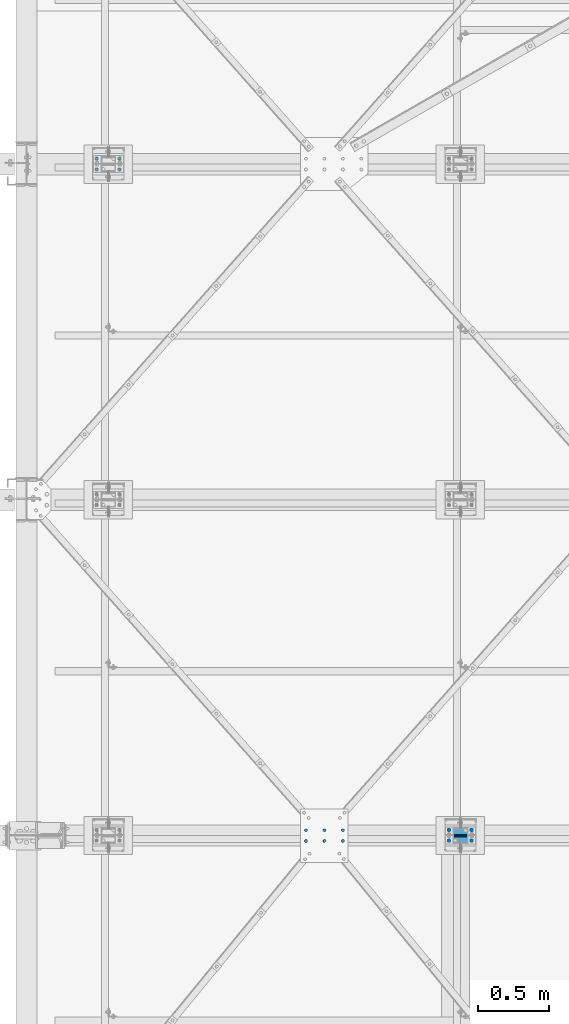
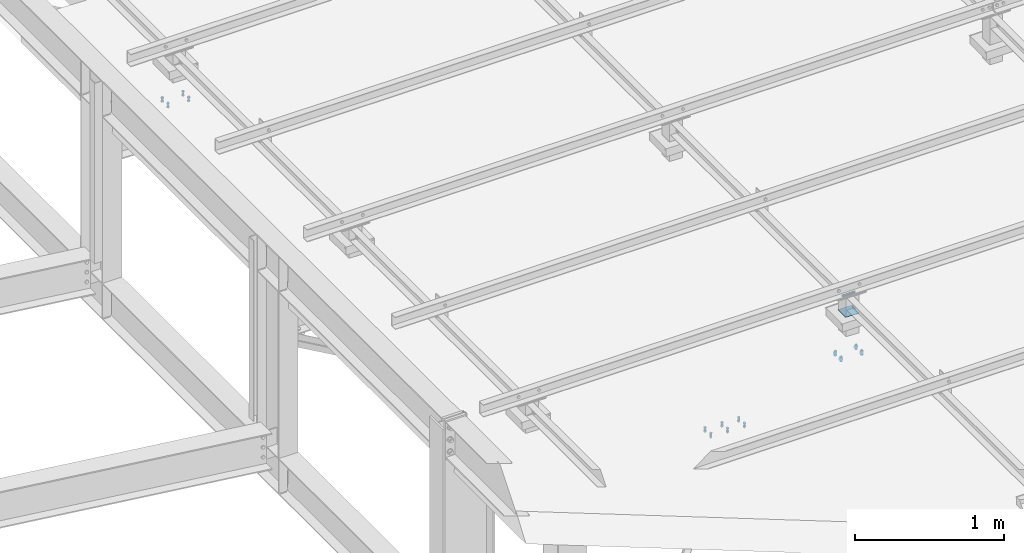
# One storey, part 326 of 3134: 6 mechanical fasteners, 4 elements without a shape of their own.
"""IFC2X3 building model written with IfcOpenShell, lengths in millimetres."""

from ifc_helpers import new_model, si_unit, frame, origin_with_axes, place, context, subcontext, project, spatial, faceted_brep, source, transform, mapped, material, type_object, element, aggregate, save


model = new_model("IFC2X3")

# Units and contexts
model_context = context("Model", 3, precision=1e-05, world=origin_with_axes())
body_context = subcontext(model_context, "Body", "Model", "MODEL_VIEW")
ifc_project = project(units=[si_unit("LENGTHUNIT", "METRE", prefix="MILLI"), si_unit("AREAUNIT", "SQUARE_METRE"), si_unit("VOLUMEUNIT", "CUBIC_METRE"), si_unit("MASSUNIT", "GRAM", prefix="KILO"), si_unit("TIMEUNIT", "SECOND"), si_unit("PLANEANGLEUNIT", "RADIAN"), si_unit("SOLIDANGLEUNIT", "STERADIAN"), si_unit("THERMODYNAMICTEMPERATUREUNIT", "DEGREE_CELSIUS"), si_unit("LUMINOUSINTENSITYUNIT", "LUMEN")], contexts=[model_context])

# Site, building, storey
site_placement = place(None, origin_with_axes())
site = spatial("IfcSite", under=ifc_project, at=site_placement, CompositionType="ELEMENT")
building_placement = place(site_placement, origin_with_axes())
building = spatial("IfcBuilding", under=site, at=building_placement, Name="Undefined", CompositionType="ELEMENT")
storey_placement = place(building_placement, origin_with_axes())
storey = spatial("IfcBuildingStorey", under=building, at=storey_placement, Name="Undefined", CompositionType="ELEMENT", Elevation=0.0)

# Assembly, mechanical fastener
assembly_1_placement = place(storey_placement, origin_with_axes())
assembly_1 = element("IfcElementAssembly", 1, at=assembly_1_placement, inside=storey, AssemblyPlace="NOTDEFINED", PredefinedType="RIGID_FRAME")
ifc_material_1 = material(Name="8.8")
mechanical_fastener_type = type_object("IfcMechanicalFastenerType", Name="Bolt assembly")
shared_shape_1 = source(origin_with_axes(), body_context, "Body", "Brep", [
    faceted_brep([(7.0, 13.0000253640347, 0.0), (6.06217782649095, 13.0000253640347, 3.50000000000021), (3.49999999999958, 13.0000253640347, 6.06217782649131), (-7.25435187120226e-13, 13.0000253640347, 7.0), (-3.50000000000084, 13.0000253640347, 6.06217782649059), (-6.06217782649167, 13.0000253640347, 3.49999999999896), (-7.0, 13.0000253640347, -1.45087037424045e-12), (-6.06217782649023, 13.0000253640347, -3.50000000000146), (-3.49999999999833, 13.0000253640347, -6.06217782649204), (2.1685340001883e-12, 13.0000253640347, -7.0), (3.50000000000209, 13.0000253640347, -6.06217782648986), (6.0621778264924, 13.0000253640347, -3.4999999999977), (6.0621778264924, 15.0999999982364, -3.4999999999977), (3.50000000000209, 15.0999999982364, -6.06217782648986), (2.1685340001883e-12, 15.0999999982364, -7.0), (-3.49999999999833, 15.0999999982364, -6.06217782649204), (-6.06217782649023, 15.0999999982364, -3.50000000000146), (-7.0, 15.0999999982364, -1.45087037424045e-12), (-6.06217782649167, 15.0999999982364, 3.49999999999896), (-3.50000000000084, 15.0999999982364, 6.06217782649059), (-7.25435187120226e-13, 15.0999999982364, 7.0), (3.49999999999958, 15.0999999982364, 6.06217782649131), (6.06217782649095, 15.0999999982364, 3.50000000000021), (7.0, 15.0999999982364, 0.0)], [[[0, 1, 2, 3, 4, 5, 6, 7, 8, 9, 10, 11]], [[12, 13, 14, 15, 16, 17, 18, 19, 20, 21, 22, 23]], [[0, 23, 22, 1]], [[1, 22, 21, 2]], [[2, 21, 20, 3]], [[3, 20, 19, 4]], [[4, 19, 18, 5]], [[5, 18, 17, 6]], [[6, 17, 16, 7]], [[7, 16, 15, 8]], [[8, 15, 14, 9]], [[9, 14, 13, 10]], [[10, 13, 12, 11]], [[11, 12, 23, 0]]]),
])
mechanical_fastener_1_placement = place(assembly_1_placement, frame((70599.3451187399, 7688.0, 5332.4572055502), z_axis=(-0.99951962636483, 0.0, 0.0309922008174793), x_axis=(0.0, -1.0, 0.0)))
mechanical_fastener_1 = element("IfcMechanicalFastener", 2, at=mechanical_fastener_1_placement, type_object=mechanical_fastener_type, material=ifc_material_1, Name="Bolt assembly", NominalDiameter=12.0, NominalLength=2.0, context=body_context, shape_type="MappedRepresentation", body=[
    mapped(shared_shape_1, transform((0.0, -5.32963895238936e-10, -79.9999999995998))),
    mapped(shared_shape_1, transform((76.0, -5.32963895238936e-10, -79.9999999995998))),
    mapped(shared_shape_1, transform((0.0, 5.3114490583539e-10, 79.9999999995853))),
    mapped(shared_shape_1, transform((76.0, 5.3114490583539e-10, 79.9999999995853))),
])
aggregate(assembly_1, [mechanical_fastener_1])

# Assembly, mechanical fasteners
assembly_2_placement = place(storey_placement, origin_with_axes())
assembly_2 = element("IfcElementAssembly", 3, at=assembly_2_placement, inside=storey, AssemblyPlace="NOTDEFINED", PredefinedType="RIGID_FRAME")
shared_shape_2 = source(origin_with_axes(), body_context, "Body", "Brep", [
    faceted_brep([(9.0, -50.0, 0.0), (7.79422863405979, -50.0, 4.50000000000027), (4.49999999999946, -50.0, 7.79422863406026), (-9.3270238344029e-13, -50.0, 9.0), (-4.50000000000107, -50.0, 7.79422863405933), (-7.79422863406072, -50.0, 4.49999999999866), (-9.0, -50.0, -1.86540476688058e-12), (-7.79422863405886, -50.0, -4.50000000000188), (-4.49999999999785, -50.0, -7.79422863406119), (2.78811514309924e-12, -50.0, -9.0), (4.50000000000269, -50.0, -7.7942286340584), (7.79422863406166, -50.0, -4.49999999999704), (7.79422863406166, 50.1, -4.49999999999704), (4.50000000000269, 50.1, -7.7942286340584), (2.78811514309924e-12, 50.1, -9.0), (-4.49999999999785, 50.1, -7.79422863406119), (-7.79422863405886, 50.1, -4.50000000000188), (-9.0, 50.1, -1.86540476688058e-12), (-7.79422863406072, 50.1, 4.49999999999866), (-4.50000000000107, 50.1, 7.79422863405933), (-9.3270238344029e-13, 50.1, 9.0), (4.49999999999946, 50.1, 7.79422863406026), (7.79422863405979, 50.1, 4.50000000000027), (9.0, 50.1, 0.0)], [[[0, 1, 2, 3, 4, 5, 6, 7, 8, 9, 10, 11]], [[12, 13, 14, 15, 16, 17, 18, 19, 20, 21, 22, 23]], [[0, 23, 22, 1]], [[1, 22, 21, 2]], [[2, 21, 20, 3]], [[3, 20, 19, 4]], [[4, 19, 18, 5]], [[5, 18, 17, 6]], [[6, 17, 16, 7]], [[7, 16, 15, 8]], [[8, 15, 14, 9]], [[9, 14, 13, 10]], [[10, 13, 12, 11]], [[11, 12, 23, 0]]]),
])
mechanical_fastener_2_placement = place(assembly_2_placement, frame((70600.0, 7650.0, 5830.0), z_axis=(0.0, 1.0, 0.0), x_axis=(0.0, 0.0, 1.0)))
mechanical_fastener_2 = element("IfcMechanicalFastener", 4, at=mechanical_fastener_2_placement, type_object=mechanical_fastener_type, material=ifc_material_1, Name="Bolt assembly", NominalDiameter=16.0, NominalLength=100.0, context=body_context, shape_type="MappedRepresentation", body=[
    mapped(shared_shape_2, transform((0.0, 0.0, 0.0))),
])
ifc_material_2 = material(Name="6.8")
shared_shape_3 = source(origin_with_axes(), body_context, "Body", "Brep", [
    faceted_brep([(51.5, 1.36424205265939e-12, 50.0), (51.3858192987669, 1.36424205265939e-12, 50.5740251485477), (51.0606601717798, 1.36424205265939e-12, 51.0606601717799), (50.5740251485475, 1.36424205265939e-12, 51.385819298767), (-50.0000000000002, 1.36424205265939e-12, 51.5), (-50.7500000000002, 1.36424205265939e-12, 51.2990381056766), (-51.2990381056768, 1.36424205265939e-12, 50.7499999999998), (-51.5, 1.36424205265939e-12, 49.9999999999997), (-51.5, 1.36424205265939e-12, -50.0000000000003), (-51.2990381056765, 1.36424205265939e-12, -50.7500000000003), (-50.7499999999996, 1.36424205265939e-12, -51.2990381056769), (-49.9999999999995, 1.36424205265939e-12, -51.5), (50.0000000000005, 1.36424205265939e-12, -51.5), (50.7500000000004, 1.36424205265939e-12, -51.2990381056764), (51.2990381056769, 1.36424205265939e-12, -50.7499999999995), (51.5, 1.36424205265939e-12, -49.9999999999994), (51.5, 5.10000000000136, -49.9999999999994), (51.2990381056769, 5.10000000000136, -50.7499999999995), (50.7500000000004, 5.10000000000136, -51.2990381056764), (50.0000000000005, 5.10000000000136, -51.5), (-49.9999999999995, 5.10000000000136, -51.5), (-50.7499999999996, 5.10000000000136, -51.2990381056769), (-51.2990381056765, 5.10000000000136, -50.7500000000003), (-51.5, 5.10000000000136, -50.0000000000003), (-51.5, 5.10000000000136, 49.9999999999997), (-51.2990381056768, 5.10000000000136, 50.7499999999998), (-50.7500000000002, 5.10000000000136, 51.2990381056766), (-50.0000000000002, 5.10000000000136, 51.5), (50.5740251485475, 5.10000000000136, 51.385819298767), (51.0606601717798, 5.10000000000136, 51.0606601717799), (51.3858192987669, 5.10000000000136, 50.5740251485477), (51.5, 5.10000000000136, 50.0)], [[[0, 1, 2, 3, 4, 5, 6, 7, 8, 9, 10, 11, 12, 13, 14, 15]], [[16, 17, 18, 19, 20, 21, 22, 23, 24, 25, 26, 27, 28, 29, 30, 31]], [[0, 31, 30, 1]], [[1, 30, 29, 2]], [[2, 29, 28, 3]], [[3, 28, 27, 4]], [[4, 27, 26, 5]], [[5, 26, 25, 6]], [[6, 25, 24, 7]], [[7, 24, 23, 8]], [[8, 23, 22, 9]], [[9, 22, 21, 10]], [[10, 21, 20, 11]], [[11, 20, 19, 12]], [[12, 19, 18, 13]], [[13, 18, 17, 14]], [[14, 17, 16, 15]], [[15, 16, 31, 0]]]),
])
mechanical_fastener_3_placement = place(assembly_2_placement, frame((70600.0, 7650.0, 5687.16), z_axis=(0.0, -1.0, 0.0), x_axis=(-1.0, 0.0, 0.0)))
mechanical_fastener_3 = element("IfcMechanicalFastener", 5, at=mechanical_fastener_3_placement, type_object=mechanical_fastener_type, material=ifc_material_2, Name="Bolt assembly", NominalDiameter=10.0, NominalLength=5.0, context=body_context, shape_type="MappedRepresentation", body=[
    mapped(shared_shape_3, transform((0.0, 0.0, 0.0))),
])
aggregate(assembly_2, [mechanical_fastener_2, mechanical_fastener_3])

# Assembly, mechanical fastener
assembly_3_placement = place(storey_placement, origin_with_axes())
assembly_3 = element("IfcElementAssembly", 6, at=assembly_3_placement, inside=storey, Name="300", AssemblyPlace="NOTDEFINED", PredefinedType="RIGID_FRAME")
shared_shape_4 = source(origin_with_axes(), body_context, "Body", "Brep", [
    faceted_brep([(10.9696551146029, -10.1955642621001, 0.0), (5.48482755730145, -10.1955642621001, 9.5), (-5.48482755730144, -10.1955642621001, 9.5), (-10.9696551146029, -10.1955642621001, 1.34339530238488e-15), (-5.48482755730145, -10.1955642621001, -9.5), (5.48482755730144, -10.1955642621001, -9.50000000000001), (5.48482755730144, -2.19556426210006, -9.50000000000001), (-5.48482755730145, -2.19556426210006, -9.5), (-10.9696551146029, -2.19556426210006, 1.34339530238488e-15), (-5.48482755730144, -2.19556426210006, 9.5), (5.48482755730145, -2.19556426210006, 9.5), (10.9696551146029, -2.19556426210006, 0.0), (6.0, -2.19556426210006, 0.0), (5.19615242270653, -2.19556426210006, 3.00000000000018), (2.99999999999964, -2.19556426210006, 5.19615242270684), (-6.21801588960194e-13, -2.19556426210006, 6.0), (-3.00000000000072, -2.19556426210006, 5.19615242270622), (-5.19615242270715, -2.19556426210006, 2.9999999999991), (-6.0, -2.19556426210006, -1.24360317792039e-12), (-5.19615242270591, -2.19556426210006, -3.00000000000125), (-2.99999999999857, -2.19556426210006, -5.19615242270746), (1.85874342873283e-12, -2.19556426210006, -6.0), (3.00000000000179, -2.19556426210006, -5.1961524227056), (5.19615242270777, -2.19556426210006, -2.99999999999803), (5.19615242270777, 32.8044357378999, -2.99999999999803), (3.00000000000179, 32.8044357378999, -5.1961524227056), (1.85874342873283e-12, 32.8044357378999, -6.0), (-2.99999999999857, 32.8044357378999, -5.19615242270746), (-5.19615242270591, 32.8044357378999, -3.00000000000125), (-6.0, 32.8044357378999, -1.24360317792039e-12), (-5.19615242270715, 32.8044357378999, 2.9999999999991), (-3.00000000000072, 32.8044357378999, 5.19615242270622), (-6.21801588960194e-13, 32.8044357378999, 6.0), (2.99999999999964, 32.8044357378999, 5.19615242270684), (5.19615242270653, 32.8044357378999, 3.00000000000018), (6.0, 32.8044357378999, 0.0), (10.9696551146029, 17.0008987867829, 0.0), (5.48482755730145, 17.0008987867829, 9.5), (-5.48482755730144, 17.0008987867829, 9.5), (-10.9696551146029, 17.0008987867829, 1.34339530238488e-15), (-5.48482755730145, 17.0008987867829, -9.5), (5.48482755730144, 17.0008987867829, -9.50000000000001), (5.48482755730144, 27.0008987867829, -9.50000000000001), (-5.48482755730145, 27.0008987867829, -9.5), (-10.9696551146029, 27.0008987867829, 1.34339530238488e-15), (-5.48482755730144, 27.0008987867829, 9.5), (5.48482755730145, 27.0008987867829, 9.5), (10.9696551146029, 27.0008987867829, 0.0)], [[[0, 1, 2, 3, 4, 5]], [[6, 7, 8, 9, 10, 11]], [[0, 11, 10, 1]], [[1, 10, 9, 2]], [[2, 9, 8, 3]], [[3, 8, 7, 4]], [[4, 7, 6, 5]], [[5, 6, 11, 0]], [[12, 13, 14, 15, 16, 17, 18, 19, 20, 21, 22, 23]], [[24, 25, 26, 27, 28, 29, 30, 31, 32, 33, 34, 35]], [[12, 35, 34, 13]], [[13, 34, 33, 14]], [[14, 33, 32, 15]], [[15, 32, 31, 16]], [[16, 31, 30, 17]], [[17, 30, 29, 18]], [[18, 29, 28, 19]], [[19, 28, 27, 20]], [[20, 27, 26, 21]], [[21, 26, 25, 22]], [[22, 25, 24, 23]], [[23, 24, 35, 12]], [[36, 37, 38, 39, 40, 41]], [[42, 43, 44, 45, 46, 47]], [[36, 47, 46, 37]], [[37, 46, 45, 38]], [[38, 45, 44, 39]], [[39, 44, 43, 40]], [[40, 43, 42, 41]], [[41, 42, 47, 36]]]),
    faceted_brep([(7.0, 8.90089878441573, 0.0), (6.06217782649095, 8.90089878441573, 3.50000000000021), (3.49999999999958, 8.90089878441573, 6.06217782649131), (-7.25435187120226e-13, 8.90089878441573, 7.0), (-3.50000000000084, 8.90089878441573, 6.06217782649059), (-6.06217782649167, 8.90089878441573, 3.49999999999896), (-7.0, 8.90089878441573, -1.45087037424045e-12), (-6.06217782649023, 8.90089878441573, -3.50000000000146), (-3.49999999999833, 8.90089878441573, -6.06217782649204), (2.1685340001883e-12, 8.90089878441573, -7.0), (3.50000000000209, 8.90089878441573, -6.06217782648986), (6.0621778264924, 8.90089878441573, -3.4999999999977), (6.0621778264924, 17.0008987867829, -3.4999999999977), (3.50000000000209, 17.0008987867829, -6.06217782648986), (2.1685340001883e-12, 17.0008987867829, -7.0), (-3.49999999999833, 17.0008987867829, -6.06217782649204), (-6.06217782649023, 17.0008987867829, -3.50000000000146), (-7.0, 17.0008987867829, -1.45087037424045e-12), (-6.06217782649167, 17.0008987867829, 3.49999999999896), (-3.50000000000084, 17.0008987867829, 6.06217782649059), (-7.25435187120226e-13, 17.0008987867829, 7.0), (3.49999999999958, 17.0008987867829, 6.06217782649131), (6.06217782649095, 17.0008987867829, 3.50000000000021), (7.0, 17.0008987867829, 0.0), (7.0, -2.09556426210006, 0.0), (6.06217782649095, -2.09556426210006, 3.50000000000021), (3.49999999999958, -2.09556426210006, 6.06217782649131), (-7.25435187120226e-13, -2.09556426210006, 7.0), (-3.50000000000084, -2.09556426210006, 6.06217782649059), (-6.06217782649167, -2.09556426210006, 3.49999999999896), (-7.0, -2.09556426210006, -1.45087037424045e-12), (-6.06217782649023, -2.09556426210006, -3.50000000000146), (-3.49999999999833, -2.09556426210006, -6.06217782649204), (2.1685340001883e-12, -2.09556426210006, -7.0), (3.50000000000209, -2.09556426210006, -6.06217782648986), (6.0621778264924, -2.09556426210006, -3.4999999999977), (6.0621778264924, 7.10443554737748, -3.4999999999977), (3.50000000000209, 7.10443554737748, -6.06217782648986), (2.1685340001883e-12, 7.10443554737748, -7.0), (-3.49999999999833, 7.10443554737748, -6.06217782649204), (-6.06217782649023, 7.10443554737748, -3.50000000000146), (-7.0, 7.10443554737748, -1.45087037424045e-12), (-6.06217782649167, 7.10443554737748, 3.49999999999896), (-3.50000000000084, 7.10443554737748, 6.06217782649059), (-7.25435187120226e-13, 7.10443554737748, 7.0), (3.49999999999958, 7.10443554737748, 6.06217782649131), (6.06217782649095, 7.10443554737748, 3.50000000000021), (7.0, 7.10443554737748, 0.0)], [[[0, 1, 2, 3, 4, 5, 6, 7, 8, 9, 10, 11]], [[12, 13, 14, 15, 16, 17, 18, 19, 20, 21, 22, 23]], [[0, 23, 22, 1]], [[1, 22, 21, 2]], [[2, 21, 20, 3]], [[3, 20, 19, 4]], [[4, 19, 18, 5]], [[5, 18, 17, 6]], [[6, 17, 16, 7]], [[7, 16, 15, 8]], [[8, 15, 14, 9]], [[9, 14, 13, 10]], [[10, 13, 12, 11]], [[11, 12, 23, 0]], [[24, 25, 26, 27, 28, 29, 30, 31, 32, 33, 34, 35]], [[36, 37, 38, 39, 40, 41, 42, 43, 44, 45, 46, 47]], [[24, 47, 46, 25]], [[25, 46, 45, 26]], [[26, 45, 44, 27]], [[27, 44, 43, 28]], [[28, 43, 42, 29]], [[29, 42, 41, 30]], [[30, 41, 40, 31]], [[31, 40, 39, 32]], [[32, 39, 38, 33]], [[33, 38, 37, 34]], [[34, 37, 36, 35]], [[35, 36, 47, 24]]]),
])
mechanical_fastener_4_placement = place(assembly_3_placement, frame((70599.5351187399, 7688.0, 5338.4572055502), z_axis=(-0.99951962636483, 0.0, 0.0309922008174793), x_axis=(0.0, -1.0, 0.0)))
mechanical_fastener_4 = element("IfcMechanicalFastener", 7, at=mechanical_fastener_4_placement, type_object=mechanical_fastener_type, material=ifc_material_1, Name="Bolt assembly", NominalDiameter=12.0, NominalLength=35.0, context=body_context, shape_type="MappedRepresentation", body=[
    mapped(shared_shape_4, transform((0.0, -5.32963895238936e-10, -79.9999999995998))),
    mapped(shared_shape_4, transform((76.0, -5.32963895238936e-10, -79.9999999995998))),
    mapped(shared_shape_4, transform((0.0, 5.3114490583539e-10, 79.9999999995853))),
    mapped(shared_shape_4, transform((76.0, 5.3114490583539e-10, 79.9999999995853))),
])

assembly_4_placement = place(storey_placement, origin_with_axes())
assembly_4 = element("IfcElementAssembly", 8, at=assembly_4_placement, inside=storey, Name="300", AssemblyPlace="NOTDEFINED", PredefinedType="RIGID_FRAME")
shared_shape_5 = source(origin_with_axes(), body_context, "Body", "Brep", [
    faceted_brep([(10.9696551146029, -10.2005960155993, 0.0), (5.48482755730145, -10.2005960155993, 9.5), (-5.48482755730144, -10.2005960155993, 9.5), (-10.9696551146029, -10.2005960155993, 1.34339530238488e-15), (-5.48482755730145, -10.2005960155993, -9.5), (5.48482755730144, -10.2005960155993, -9.50000000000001), (5.48482755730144, -2.20059601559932, -9.50000000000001), (-5.48482755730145, -2.20059601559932, -9.5), (-10.9696551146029, -2.20059601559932, 1.34339530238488e-15), (-5.48482755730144, -2.20059601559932, 9.5), (5.48482755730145, -2.20059601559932, 9.5), (10.9696551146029, -2.20059601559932, 0.0), (6.0, -2.20059601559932, 0.0), (5.19615242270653, -2.20059601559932, 3.00000000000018), (2.99999999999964, -2.20059601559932, 5.19615242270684), (-6.21801588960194e-13, -2.20059601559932, 6.0), (-3.00000000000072, -2.20059601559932, 5.19615242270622), (-5.19615242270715, -2.20059601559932, 2.9999999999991), (-6.0, -2.20059601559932, -1.24360317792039e-12), (-5.19615242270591, -2.20059601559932, -3.00000000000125), (-2.99999999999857, -2.20059601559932, -5.19615242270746), (1.85874342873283e-12, -2.20059601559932, -6.0), (3.00000000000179, -2.20059601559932, -5.1961524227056), (5.19615242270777, -2.20059601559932, -2.99999999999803), (5.19615242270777, 32.7994039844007, -2.99999999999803), (3.00000000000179, 32.7994039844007, -5.1961524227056), (1.85874342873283e-12, 32.7994039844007, -6.0), (-2.99999999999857, 32.7994039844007, -5.19615242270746), (-5.19615242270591, 32.7994039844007, -3.00000000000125), (-6.0, 32.7994039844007, -1.24360317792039e-12), (-5.19615242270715, 32.7994039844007, 2.9999999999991), (-3.00000000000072, 32.7994039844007, 5.19615242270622), (-6.21801588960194e-13, 32.7994039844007, 6.0), (2.99999999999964, 32.7994039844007, 5.19615242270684), (5.19615242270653, 32.7994039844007, 3.00000000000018), (6.0, 32.7994039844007, 0.0), (10.9696551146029, 17.0008987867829, 0.0), (5.48482755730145, 17.0008987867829, 9.5), (-5.48482755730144, 17.0008987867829, 9.5), (-10.9696551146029, 17.0008987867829, 1.34339530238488e-15), (-5.48482755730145, 17.0008987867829, -9.5), (5.48482755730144, 17.0008987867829, -9.50000000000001), (5.48482755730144, 27.0008987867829, -9.50000000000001), (-5.48482755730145, 27.0008987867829, -9.5), (-10.9696551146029, 27.0008987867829, 1.34339530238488e-15), (-5.48482755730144, 27.0008987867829, 9.5), (5.48482755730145, 27.0008987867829, 9.5), (10.9696551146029, 27.0008987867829, 0.0)], [[[0, 1, 2, 3, 4, 5]], [[6, 7, 8, 9, 10, 11]], [[0, 11, 10, 1]], [[1, 10, 9, 2]], [[2, 9, 8, 3]], [[3, 8, 7, 4]], [[4, 7, 6, 5]], [[5, 6, 11, 0]], [[12, 13, 14, 15, 16, 17, 18, 19, 20, 21, 22, 23]], [[24, 25, 26, 27, 28, 29, 30, 31, 32, 33, 34, 35]], [[12, 35, 34, 13]], [[13, 34, 33, 14]], [[14, 33, 32, 15]], [[15, 32, 31, 16]], [[16, 31, 30, 17]], [[17, 30, 29, 18]], [[18, 29, 28, 19]], [[19, 28, 27, 20]], [[20, 27, 26, 21]], [[21, 26, 25, 22]], [[22, 25, 24, 23]], [[23, 24, 35, 12]], [[36, 37, 38, 39, 40, 41]], [[42, 43, 44, 45, 46, 47]], [[36, 47, 46, 37]], [[37, 46, 45, 38]], [[38, 45, 44, 39]], [[39, 44, 43, 40]], [[40, 43, 42, 41]], [[41, 42, 47, 36]]]),
    faceted_brep([(7.0, 8.90089878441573, 0.0), (6.06217782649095, 8.90089878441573, 3.50000000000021), (3.49999999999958, 8.90089878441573, 6.06217782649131), (-7.25435187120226e-13, 8.90089878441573, 7.0), (-3.50000000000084, 8.90089878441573, 6.06217782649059), (-6.06217782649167, 8.90089878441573, 3.49999999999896), (-7.0, 8.90089878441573, -1.45087037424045e-12), (-6.06217782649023, 8.90089878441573, -3.50000000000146), (-3.49999999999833, 8.90089878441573, -6.06217782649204), (2.1685340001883e-12, 8.90089878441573, -7.0), (3.50000000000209, 8.90089878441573, -6.06217782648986), (6.0621778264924, 8.90089878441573, -3.4999999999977), (6.0621778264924, 17.0008987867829, -3.4999999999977), (3.50000000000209, 17.0008987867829, -6.06217782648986), (2.1685340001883e-12, 17.0008987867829, -7.0), (-3.49999999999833, 17.0008987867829, -6.06217782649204), (-6.06217782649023, 17.0008987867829, -3.50000000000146), (-7.0, 17.0008987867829, -1.45087037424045e-12), (-6.06217782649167, 17.0008987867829, 3.49999999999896), (-3.50000000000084, 17.0008987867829, 6.06217782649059), (-7.25435187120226e-13, 17.0008987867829, 7.0), (3.49999999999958, 17.0008987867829, 6.06217782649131), (6.06217782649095, 17.0008987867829, 3.50000000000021), (7.0, 17.0008987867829, 0.0), (7.0, -2.10059601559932, 0.0), (6.06217782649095, -2.10059601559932, 3.50000000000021), (3.49999999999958, -2.10059601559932, 6.06217782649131), (-7.25435187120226e-13, -2.10059601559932, 7.0), (-3.50000000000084, -2.10059601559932, 6.06217782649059), (-6.06217782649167, -2.10059601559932, 3.49999999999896), (-7.0, -2.10059601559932, -1.45087037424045e-12), (-6.06217782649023, -2.10059601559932, -3.50000000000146), (-3.49999999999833, -2.10059601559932, -6.06217782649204), (2.1685340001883e-12, -2.10059601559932, -7.0), (3.50000000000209, -2.10059601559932, -6.06217782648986), (6.0621778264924, -2.10059601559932, -3.4999999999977), (6.0621778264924, 7.09940379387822, -3.4999999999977), (3.50000000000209, 7.09940379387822, -6.06217782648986), (2.1685340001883e-12, 7.09940379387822, -7.0), (-3.49999999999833, 7.09940379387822, -6.06217782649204), (-6.06217782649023, 7.09940379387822, -3.50000000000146), (-7.0, 7.09940379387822, -1.45087037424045e-12), (-6.06217782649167, 7.09940379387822, 3.49999999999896), (-3.50000000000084, 7.09940379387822, 6.06217782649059), (-7.25435187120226e-13, 7.09940379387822, 7.0), (3.49999999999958, 7.09940379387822, 6.06217782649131), (6.06217782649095, 7.09940379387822, 3.50000000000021), (7.0, 7.09940379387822, 0.0)], [[[0, 1, 2, 3, 4, 5, 6, 7, 8, 9, 10, 11]], [[12, 13, 14, 15, 16, 17, 18, 19, 20, 21, 22, 23]], [[0, 23, 22, 1]], [[1, 22, 21, 2]], [[2, 21, 20, 3]], [[3, 20, 19, 4]], [[4, 19, 18, 5]], [[5, 18, 17, 6]], [[6, 17, 16, 7]], [[7, 16, 15, 8]], [[8, 15, 14, 9]], [[9, 14, 13, 10]], [[10, 13, 12, 11]], [[11, 12, 23, 0]], [[24, 25, 26, 27, 28, 29, 30, 31, 32, 33, 34, 35]], [[36, 37, 38, 39, 40, 41, 42, 43, 44, 45, 46, 47]], [[24, 47, 46, 25]], [[25, 46, 45, 26]], [[26, 45, 44, 27]], [[27, 44, 43, 28]], [[28, 43, 42, 29]], [[29, 42, 41, 30]], [[30, 41, 40, 31]], [[31, 40, 39, 32]], [[32, 39, 38, 33]], [[33, 38, 37, 34]], [[34, 37, 36, 35]], [[35, 36, 47, 24]]]),
])
mechanical_fastener_5_placement = place(assembly_4_placement, frame((68124.5351187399, 12408.0, 5415.1872055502), z_axis=(-0.99951962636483, 0.0, 0.0309922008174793), x_axis=(0.0, -1.0, 0.0)))
mechanical_fastener_5 = element("IfcMechanicalFastener", 9, at=mechanical_fastener_5_placement, type_object=mechanical_fastener_type, material=ifc_material_1, Name="Bolt assembly", NominalDiameter=12.0, NominalLength=35.0, context=body_context, shape_type="MappedRepresentation", body=[
    mapped(shared_shape_5, transform((0.0, -5.32963895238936e-10, -79.9999999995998))),
    mapped(shared_shape_5, transform((76.0, -5.32963895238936e-10, -79.9999999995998))),
    mapped(shared_shape_5, transform((0.0, 5.3114490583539e-10, 79.9999999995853))),
    mapped(shared_shape_5, transform((76.0, 5.3114490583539e-10, 79.9999999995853))),
])
aggregate(assembly_4, [mechanical_fastener_5])

# Mechanical fastener
shared_shape_6 = source(origin_with_axes(), body_context, "Body", "Brep", [
    faceted_brep([(10.9696551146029, -21.2000017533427, 0.0), (5.48482755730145, -21.2000017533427, 9.5), (-5.48482755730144, -21.2000017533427, 9.5), (-10.9696551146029, -21.2000017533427, 1.34339530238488e-15), (-5.48482755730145, -21.2000017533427, -9.5), (5.48482755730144, -21.2000017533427, -9.50000000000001), (5.48482755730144, -13.2000017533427, -9.50000000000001), (-5.48482755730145, -13.2000017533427, -9.5), (-10.9696551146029, -13.2000017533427, 1.34339530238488e-15), (-5.48482755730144, -13.2000017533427, 9.5), (5.48482755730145, -13.2000017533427, 9.5), (10.9696551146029, -13.2000017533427, 0.0), (6.0, -13.2000017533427, 0.0), (5.19615242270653, -13.2000017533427, 3.00000000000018), (2.99999999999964, -13.2000017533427, 5.19615242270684), (-6.21801588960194e-13, -13.2000017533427, 6.0), (-3.00000000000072, -13.2000017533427, 5.19615242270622), (-5.19615242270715, -13.2000017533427, 2.9999999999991), (-6.0, -13.2000017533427, -1.24360317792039e-12), (-5.19615242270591, -13.2000017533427, -3.00000000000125), (-2.99999999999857, -13.2000017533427, -5.19615242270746), (1.85874342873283e-12, -13.2000017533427, -6.0), (3.00000000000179, -13.2000017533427, -5.1961524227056), (5.19615242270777, -13.2000017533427, -2.99999999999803), (5.19615242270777, 21.7999982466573, -2.99999999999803), (3.00000000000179, 21.7999982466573, -5.1961524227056), (1.85874342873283e-12, 21.7999982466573, -6.0), (-2.99999999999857, 21.7999982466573, -5.19615242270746), (-5.19615242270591, 21.7999982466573, -3.00000000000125), (-6.0, 21.7999982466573, -1.24360317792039e-12), (-5.19615242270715, 21.7999982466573, 2.9999999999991), (-3.00000000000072, 21.7999982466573, 5.19615242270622), (-6.21801588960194e-13, 21.7999982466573, 6.0), (2.99999999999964, 21.7999982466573, 5.19615242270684), (5.19615242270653, 21.7999982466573, 3.00000000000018), (6.0, 21.7999982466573, 0.0), (10.9696551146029, 4.00000000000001, 0.0), (5.48482755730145, 4.00000000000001, 9.5), (-5.48482755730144, 4.00000000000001, 9.5), (-10.9696551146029, 4.00000000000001, 1.34339530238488e-15), (-5.48482755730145, 4.00000000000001, -9.5), (5.48482755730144, 4.00000000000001, -9.50000000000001), (5.48482755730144, 14.0, -9.50000000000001), (-5.48482755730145, 14.0, -9.5), (-10.9696551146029, 14.0, 1.34339530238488e-15), (-5.48482755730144, 14.0, 9.5), (5.48482755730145, 14.0, 9.5), (10.9696551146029, 14.0, 0.0)], [[[0, 1, 2, 3, 4, 5]], [[6, 7, 8, 9, 10, 11]], [[0, 11, 10, 1]], [[1, 10, 9, 2]], [[2, 9, 8, 3]], [[3, 8, 7, 4]], [[4, 7, 6, 5]], [[5, 6, 11, 0]], [[12, 13, 14, 15, 16, 17, 18, 19, 20, 21, 22, 23]], [[24, 25, 26, 27, 28, 29, 30, 31, 32, 33, 34, 35]], [[12, 35, 34, 13]], [[13, 34, 33, 14]], [[14, 33, 32, 15]], [[15, 32, 31, 16]], [[16, 31, 30, 17]], [[17, 30, 29, 18]], [[18, 29, 28, 19]], [[19, 28, 27, 20]], [[20, 27, 26, 21]], [[21, 26, 25, 22]], [[22, 25, 24, 23]], [[23, 24, 35, 12]], [[36, 37, 38, 39, 40, 41]], [[42, 43, 44, 45, 46, 47]], [[36, 47, 46, 37]], [[37, 46, 45, 38]], [[38, 45, 44, 39]], [[39, 44, 43, 40]], [[40, 43, 42, 41]], [[41, 42, 47, 36]]]),
    faceted_brep([(7.0, -4.09998541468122, 0.0), (6.06217782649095, -4.09998541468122, 3.50000000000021), (3.49999999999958, -4.09998541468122, 6.06217782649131), (-7.25435187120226e-13, -4.09998541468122, 7.0), (-3.50000000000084, -4.09998541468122, 6.06217782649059), (-6.06217782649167, -4.09998541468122, 3.49999999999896), (-7.0, -4.09998541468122, -1.45087037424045e-12), (-6.06217782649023, -4.09998541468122, -3.50000000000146), (-3.49999999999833, -4.09998541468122, -6.06217782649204), (2.1685340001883e-12, -4.09998541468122, -7.0), (3.50000000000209, -4.09998541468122, -6.06217782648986), (6.0621778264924, -4.09998541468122, -3.4999999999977), (6.0621778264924, 4.00000000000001, -3.4999999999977), (3.50000000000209, 4.00000000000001, -6.06217782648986), (2.1685340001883e-12, 4.00000000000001, -7.0), (-3.49999999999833, 4.00000000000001, -6.06217782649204), (-6.06217782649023, 4.00000000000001, -3.50000000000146), (-7.0, 4.00000000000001, -1.45087037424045e-12), (-6.06217782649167, 4.00000000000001, 3.49999999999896), (-3.50000000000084, 4.00000000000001, 6.06217782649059), (-7.25435187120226e-13, 4.00000000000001, 7.0), (3.49999999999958, 4.00000000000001, 6.06217782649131), (6.06217782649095, 4.00000000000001, 3.50000000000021), (7.0, 4.00000000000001, 0.0), (7.0, -13.1000017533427, 0.0), (6.06217782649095, -13.1000017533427, 3.50000000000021), (3.49999999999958, -13.1000017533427, 6.06217782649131), (-7.25435187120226e-13, -13.1000017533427, 7.0), (-3.50000000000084, -13.1000017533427, 6.06217782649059), (-6.06217782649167, -13.1000017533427, 3.49999999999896), (-7.0, -13.1000017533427, -1.45087037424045e-12), (-6.06217782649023, -13.1000017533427, -3.50000000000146), (-3.49999999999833, -13.1000017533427, -6.06217782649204), (2.1685340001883e-12, -13.1000017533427, -7.0), (3.50000000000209, -13.1000017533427, -6.06217782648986), (6.0621778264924, -13.1000017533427, -3.4999999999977), (6.0621778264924, -3.9, -3.4999999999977), (3.50000000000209, -3.9, -6.06217782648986), (2.1685340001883e-12, -3.9, -7.0), (-3.49999999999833, -3.9, -6.06217782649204), (-6.06217782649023, -3.9, -3.50000000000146), (-7.0, -3.9, -1.45087037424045e-12), (-6.06217782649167, -3.9, 3.49999999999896), (-3.50000000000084, -3.9, 6.06217782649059), (-7.25435187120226e-13, -3.9, 7.0), (3.49999999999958, -3.9, 6.06217782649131), (6.06217782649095, -3.9, 3.50000000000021), (7.0, -3.9, 0.0)], [[[0, 1, 2, 3, 4, 5, 6, 7, 8, 9, 10, 11]], [[12, 13, 14, 15, 16, 17, 18, 19, 20, 21, 22, 23]], [[0, 23, 22, 1]], [[1, 22, 21, 2]], [[2, 21, 20, 3]], [[3, 20, 19, 4]], [[4, 19, 18, 5]], [[5, 18, 17, 6]], [[6, 17, 16, 7]], [[7, 16, 15, 8]], [[8, 15, 14, 9]], [[9, 14, 13, 10]], [[10, 13, 12, 11]], [[11, 12, 23, 0]], [[24, 25, 26, 27, 28, 29, 30, 31, 32, 33, 34, 35]], [[36, 37, 38, 39, 40, 41, 42, 43, 44, 45, 46, 47]], [[24, 47, 46, 25]], [[25, 46, 45, 26]], [[26, 45, 44, 27]], [[27, 44, 43, 28]], [[28, 43, 42, 29]], [[29, 42, 41, 30]], [[30, 41, 40, 31]], [[31, 40, 39, 32]], [[32, 39, 38, 33]], [[33, 38, 37, 34]], [[34, 37, 36, 35]], [[35, 36, 47, 24]]]),
])
mechanical_fastener_6_placement = place(assembly_3_placement, frame((69773.234452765, 7649.99999995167, 5069.93516699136), z_axis=(0.0, -1.0, 0.0), x_axis=(-0.999519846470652, 0.0, 0.0309851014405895)))
mechanical_fastener_6 = element("IfcMechanicalFastener", 10, at=mechanical_fastener_6_placement, type_object=mechanical_fastener_type, material=ifc_material_1, Name="Bolt assembly", NominalDiameter=12.0, NominalLength=35.0, context=body_context, shape_type="MappedRepresentation", body=[
    mapped(shared_shape_6, transform((0.0, 0.0, -38.0))),
    mapped(shared_shape_6, transform((129.999999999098, -1.0113581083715e-09, -37.9999999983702))),
    mapped(shared_shape_6, transform((259.999999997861, -2.11548467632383e-09, -37.9999999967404))),
    mapped(shared_shape_6, transform((0.0, 0.0, 38.0))),
    mapped(shared_shape_6, transform((129.999999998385, -1.19325704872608e-09, 38.0000000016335))),
    mapped(shared_shape_6, transform((259.999999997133, -2.29920260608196e-09, 38.0000000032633))),
])

aggregate(assembly_3, [mechanical_fastener_4, mechanical_fastener_6])

save(model, "model.ifc")
